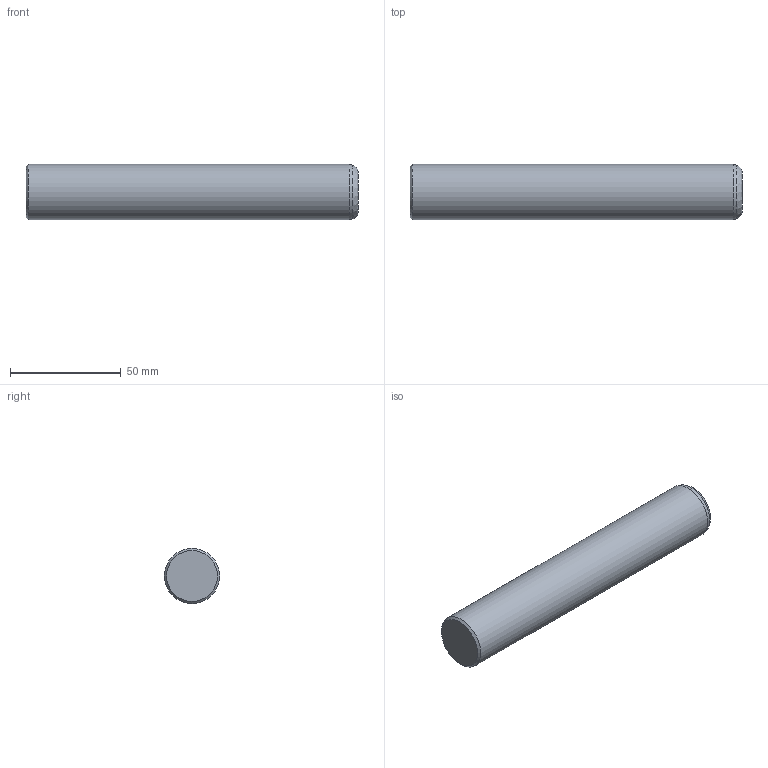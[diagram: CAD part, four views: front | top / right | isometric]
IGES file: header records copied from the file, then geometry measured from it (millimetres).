
Global section: file name: CIS25150.ipt; native system: Autodesk Inventor 2021; preprocessor: unknown; author: SM; date: 20211220.124325; units: millimetre
Bounding box: 150 x 25 x 25 mm (x, y, z)
Volume: 73365.9 mm3; surface area: 12583 mm2
Topology: 1 solids, 1 shells, 6 faces, 11 edges, 7 vertices
Faces by surface type: cone 2, plane 2, revolution 1, cylinder 1
Full cylindrical faces by diameter (mm): 25 x1
